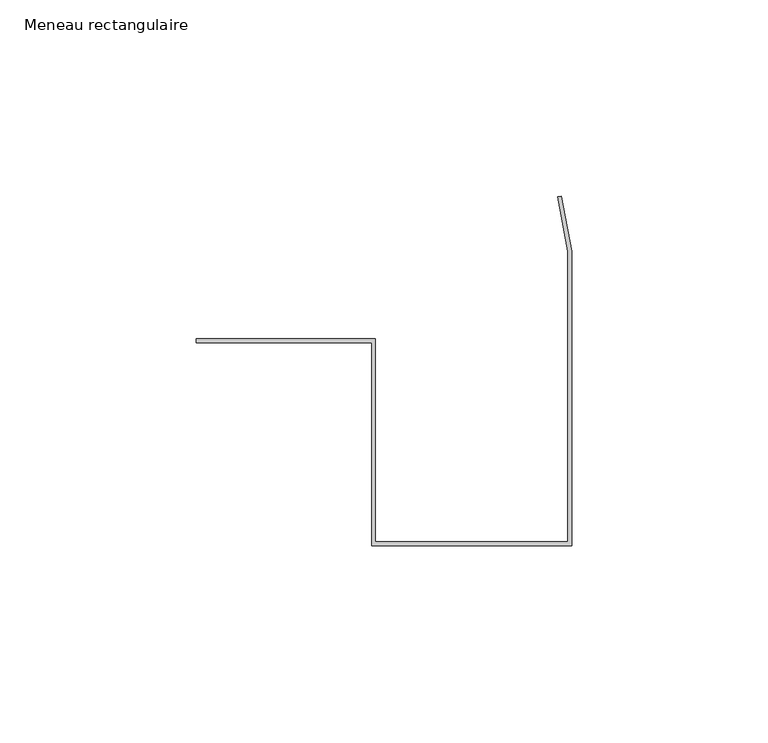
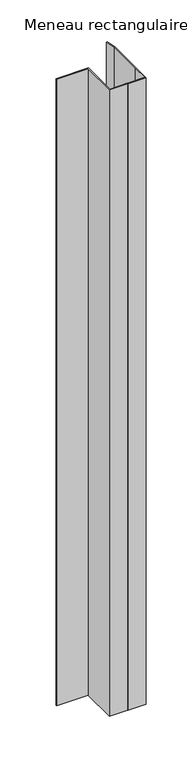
"""IFC4 building model written with IfcOpenShell, lengths in millimetres: member geometry, Meneau rectangulaire : Jonction contre mur Droite H."""

from ifc_helpers import new_model, si_unit, frame, origin, place, context, project, spatial, polyline, outline, extrude, source, transform, mapped, element, save


def meneau_rectangulaire_553c7b44(model_context):
    return source(origin(), model_context, "Body", "SweptSolid", [
        extrude(outline(polyline([(-1.0, 26.3798616), (-3.6043568, 40.2461331), (-2.6384309, 40.4275528), (0.0, 26.3798616), (0.0, -23.6201384), (0.0, -48.6201384), (-25.0, -48.6201384), (-26.0, -48.6201384), (-51.0, -48.6201384), (-51.0, 3.1), (-95.6686418, 3.1), (-95.6686418, 4.1), (-50.0, 4.1), (-50.0, -47.6201384), (-26.0, -47.6201384), (-25.0, -47.6201384), (-1.0, -47.6201384), (-1.0, -23.6201384), (-1.0, 26.3798616)])), frame((0.0, 0.0, -928.0), z_axis=(0.0, 0.0, 1.0), x_axis=(1.0, 0.0, 0.0)), (0.0, 0.0, 1.0), 928.0),
    ])


if __name__ == "__main__":
    model = new_model("IFC4")
    model_context = context("Model", 3, world=origin())
    ifc_project = project(units=[si_unit("LENGTHUNIT", "METRE", prefix="MILLI")], contexts=[model_context])
    site = spatial("IfcSite", under=ifc_project)
    building = spatial("IfcBuilding", under=site)
    placement = place(None, origin())
    meneau_rectangulaire_shape = meneau_rectangulaire_553c7b44(model_context)
    element("IfcMember", 1, ObjectType="Meneau rectangulaire : Jonction contre mur Droite H", at=placement, inside=building, context=model_context, shape_type="MappedRepresentation", body=[
        mapped(meneau_rectangulaire_shape, transform((0.0, 0.0, 0.0), x_axis=(1.0, 0.0, 0.0), y_axis=(0.0, 1.0, 0.0), z_axis=(0.0, 0.0, 1.0))),
    ])
    save(model, "model.ifc")
